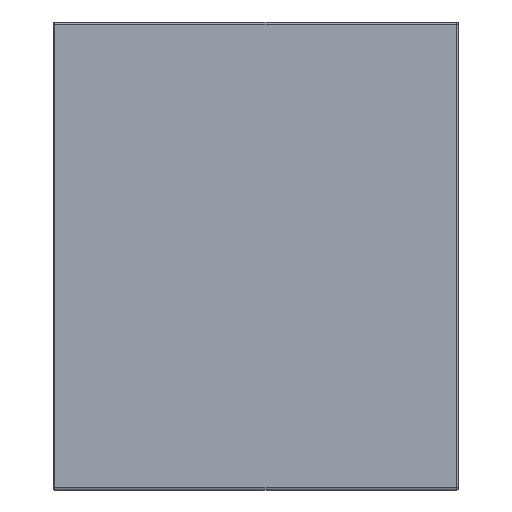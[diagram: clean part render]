
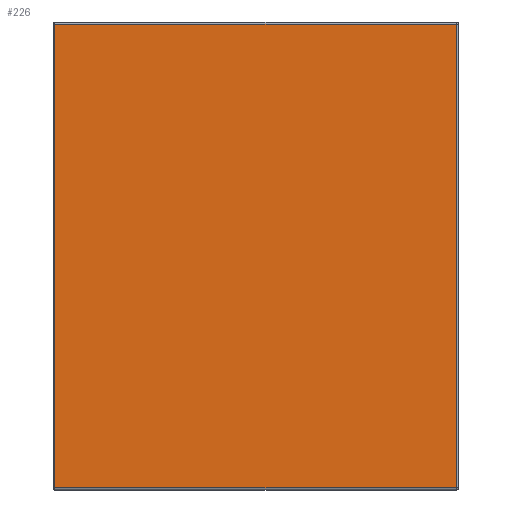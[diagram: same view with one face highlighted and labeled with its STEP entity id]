
A CAD part, left-side view. The second image highlights one B-rep face of the part: STEP entity #226.
In plain terms, the highlighted planar face has unit normal (-1, 0, 0).
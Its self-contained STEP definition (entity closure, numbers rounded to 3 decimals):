
#226 = ADVANCED_FACE ( 'NONE', ( #1488 ), #4564, .F. ) ;
#862 = CARTESIAN_POINT ( 'NONE',  ( -780., -1.5, 332. ) ) ;
#958 = LINE ( 'NONE', #1089, #7317 ) ;
#1042 = DIRECTION ( 'NONE',  ( 0., -1., 0. ) ) ;
#1074 = DIRECTION ( 'NONE',  ( 0., 0., 1. ) ) ;
#1089 = CARTESIAN_POINT ( 'NONE',  ( -780., -577., 335. ) ) ;
#1322 = DIRECTION ( 'NONE',  ( 0., 1., 0. ) ) ;
#1488 = FACE_OUTER_BOUND ( 'NONE', #1780, .T. ) ;
#1752 = CARTESIAN_POINT ( 'NONE',  ( -780., -577., -332. ) ) ;
#1780 = EDGE_LOOP ( 'NONE', ( #4865, #5913, #6031, #7031 ) ) ;
#1938 = LINE ( 'NONE', #862, #2292 ) ;
#2085 = CARTESIAN_POINT ( 'NONE',  ( -780., -1.5, 335. ) ) ;
#2230 = VERTEX_POINT ( 'NONE', #2308 ) ;
#2292 = VECTOR ( 'NONE', #1322, 1000. ) ;
#2308 = CARTESIAN_POINT ( 'NONE',  ( -780., -1.5, 332. ) ) ;
#2910 = EDGE_CURVE ( 'NONE', #6839, #4377, #958, .T. ) ;
#3159 = EDGE_CURVE ( 'NONE', #4377, #2230, #1938, .T. ) ;
#4103 = CARTESIAN_POINT ( 'NONE',  ( -780., -577., 332. ) ) ;
#4374 = DIRECTION ( 'NONE',  ( 1., 0., 0. ) ) ;
#4377 = VERTEX_POINT ( 'NONE', #4103 ) ;
#4422 = CARTESIAN_POINT ( 'NONE',  ( -780., 0., 335. ) ) ;
#4564 = PLANE ( 'NONE',  #7582 ) ;
#4604 = CARTESIAN_POINT ( 'NONE',  ( -780., 0., -332. ) ) ;
#4714 = VECTOR ( 'NONE', #5652, 1000. ) ;
#4865 = ORIENTED_EDGE ( 'NONE', *, *, #6316, .T. ) ;
#4987 = LINE ( 'NONE', #2085, #4714 ) ;
#5624 = CARTESIAN_POINT ( 'NONE',  ( -780., -1.5, -332. ) ) ;
#5652 = DIRECTION ( 'NONE',  ( 0., 0., -1. ) ) ;
#5913 = ORIENTED_EDGE ( 'NONE', *, *, #6718, .T. ) ;
#6031 = ORIENTED_EDGE ( 'NONE', *, *, #2910, .T. ) ;
#6202 = DIRECTION ( 'NONE',  ( 0., 1., 0. ) ) ;
#6316 = EDGE_CURVE ( 'NONE', #2230, #7577, #4987, .T. ) ;
#6718 = EDGE_CURVE ( 'NONE', #7577, #6839, #7163, .T. ) ;
#6839 = VERTEX_POINT ( 'NONE', #1752 ) ;
#6897 = VECTOR ( 'NONE', #1042, 1000. ) ;
#7031 = ORIENTED_EDGE ( 'NONE', *, *, #3159, .T. ) ;
#7163 = LINE ( 'NONE', #4604, #6897 ) ;
#7317 = VECTOR ( 'NONE', #1074, 1000. ) ;
#7577 = VERTEX_POINT ( 'NONE', #5624 ) ;
#7582 = AXIS2_PLACEMENT_3D ( 'NONE', #4422, #4374, #6202 ) ;
